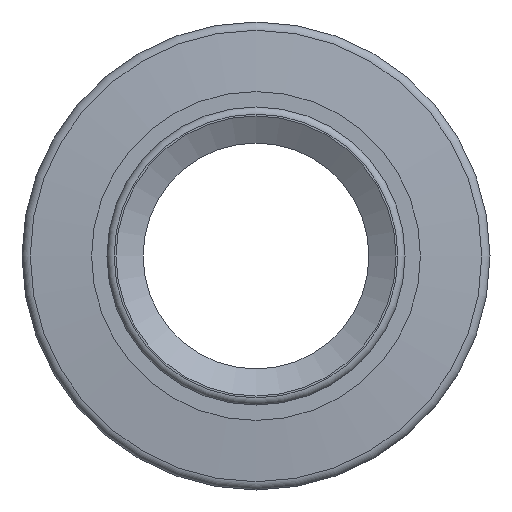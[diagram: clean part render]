
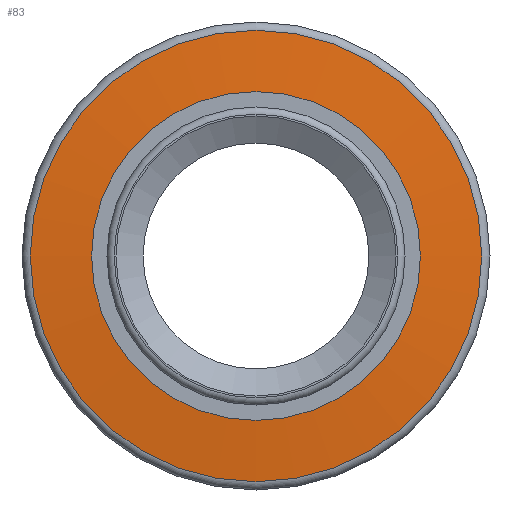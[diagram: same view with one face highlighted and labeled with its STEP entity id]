
A CAD part, front view. The second image highlights one B-rep face of the part: STEP entity #83.
In plain terms, the highlighted conical face has half-angle 85 degrees and reference radius 10.628 mm.
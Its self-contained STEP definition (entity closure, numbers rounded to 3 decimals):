
#83=ADVANCED_FACE('',(#471,#473),#475,.T.);
#471=FACE_BOUND('',#472,.T.);
#472=EDGE_LOOP('',(#919,#920));
#473=FACE_OUTER_BOUND('',#474,.T.);
#474=EDGE_LOOP('',(#921));
#475=CONICAL_SURFACE('',#476,10.628,1.484);
#476=AXIS2_PLACEMENT_3D('',#477,#478,#479);
#477=CARTESIAN_POINT('',(0.,-6.703,0.));
#478=DIRECTION('',(0.,1.,0.));
#479=DIRECTION('',(-1.,0.,0.));
#919=ORIENTED_EDGE('',*,*,#1056,.F.);
#920=ORIENTED_EDGE('',*,*,#1059,.F.);
#921=ORIENTED_EDGE('',*,*,#1061,.T.);
#1056=EDGE_CURVE('',#1190,#1191,#1192,.F.);
#1059=EDGE_CURVE('',#1191,#1190,#1195,.F.);
#1061=EDGE_CURVE('',#1198,#1198,#1199,.F.);
#1190=VERTEX_POINT('',#1502);
#1191=VERTEX_POINT('',#1503);
#1192=CIRCLE('',#1504,8.763);
#1195=CIRCLE('',#1516,8.763);
#1198=VERTEX_POINT('',#1525);
#1199=CIRCLE('',#1526,12.494);
#1502=CARTESIAN_POINT('',(-8.763,-6.866,0.));
#1503=CARTESIAN_POINT('',(0.,-6.866,8.763));
#1504=AXIS2_PLACEMENT_3D('',#1505,#1506,#1507);
#1505=CARTESIAN_POINT('',(0.,-6.866,0.));
#1506=DIRECTION('',(0.,1.,0.));
#1507=DIRECTION('',(0.,0.,1.));
#1516=AXIS2_PLACEMENT_3D('',#1517,#1518,#1519);
#1517=CARTESIAN_POINT('',(0.,-6.866,0.));
#1518=DIRECTION('',(0.,1.,0.));
#1519=DIRECTION('',(-1.,0.,0.));
#1525=CARTESIAN_POINT('',(-12.494,-6.54,0.));
#1526=AXIS2_PLACEMENT_3D('',#1527,#1528,#1529);
#1527=CARTESIAN_POINT('',(0.,-6.54,0.));
#1528=DIRECTION('',(0.,1.,0.));
#1529=DIRECTION('',(-1.,0.,0.));
